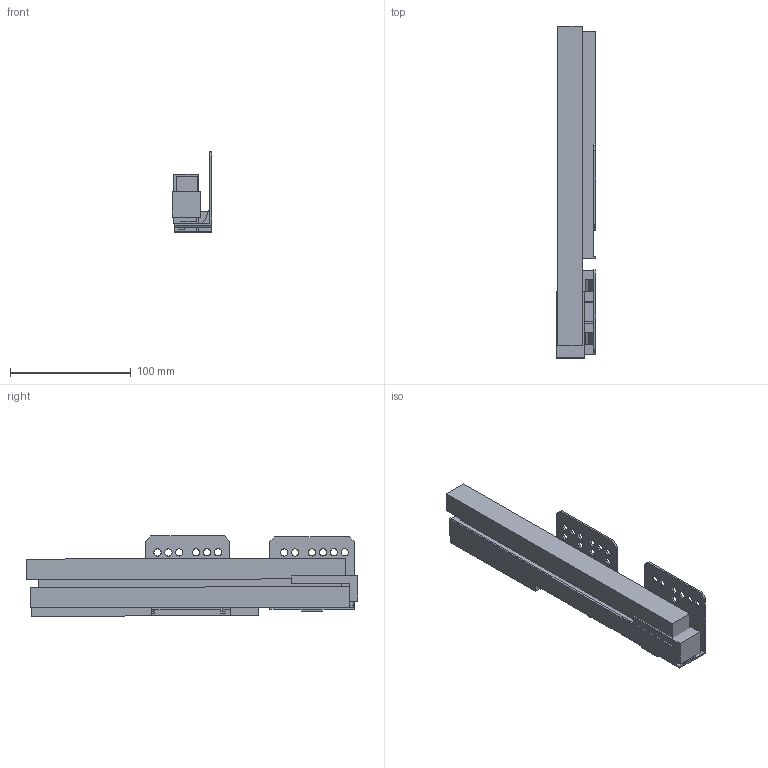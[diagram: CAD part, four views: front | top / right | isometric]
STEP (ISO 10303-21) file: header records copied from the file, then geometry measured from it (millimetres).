
FILE_DESCRIPTION (( 'STEP AP214' ), '1' );
FILE_NAME ('_IMOS Dynamic-XP VA 40kg NL275 RE.step', '2010-07-07T08:06:27', ( 'grass' ), ( '' ), 'SwSTEP 2.0', 'SolidWorks 2010', '' );
FILE_SCHEMA (( 'AUTOMOTIVE_DESIGN' ));
Length unit declared in the file: millimetre
Products named in the file (1): _IMOS Dynamic-XP VA 40kg NL275 RE
Bounding box: 32.79 x 274.89 x 66.67 mm (x, y, z)
Volume: 301987.4 mm3; surface area: 113241 mm2
Topology: 7 solids, 7 shells, 151 faces, 411 edges, 274 vertices
Faces by surface type: plane 111, cylinder 40
Entity records: 4913 total; most frequent: CARTESIAN_POINT 837, ORIENTED_EDGE 822, DIRECTION 795, EDGE_CURVE 411, LINE 331, VECTOR 331, VERTEX_POINT 274, AXIS2_PLACEMENT_3D 232
